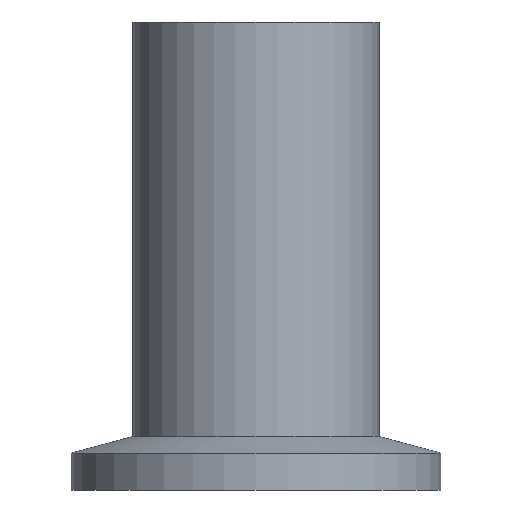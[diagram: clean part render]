
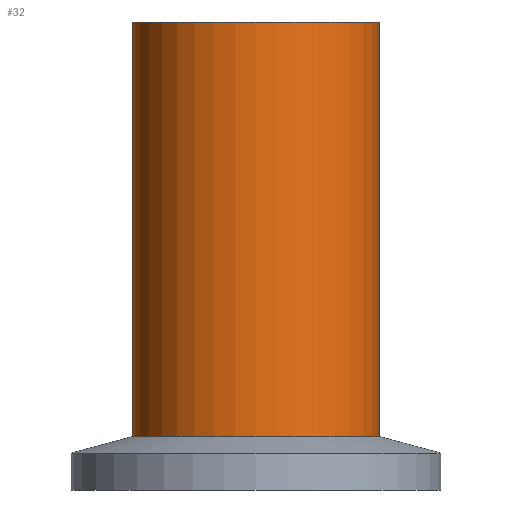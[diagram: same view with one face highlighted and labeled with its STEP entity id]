
A CAD part, front view. The second image highlights one B-rep face of the part: STEP entity #32.
In plain terms, the highlighted cylindrical face has radius 10 mm (diameter 20 mm), a full revolution.
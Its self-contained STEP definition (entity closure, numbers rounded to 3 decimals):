
#32 = ADVANCED_FACE( '', ( #65, #66 ), #67, .T. );
#65 = FACE_OUTER_BOUND( '', #104, .T. );
#66 = FACE_OUTER_BOUND( '', #105, .T. );
#67 = CYLINDRICAL_SURFACE( '', #106, 10. );
#104 = EDGE_LOOP( '', ( #137 ) );
#105 = EDGE_LOOP( '', ( #138 ) );
#106 = AXIS2_PLACEMENT_3D( '', #139, #140, #141 );
#137 = ORIENTED_EDGE( '', *, *, #185, .T. );
#138 = ORIENTED_EDGE( '', *, *, #186, .F. );
#139 = CARTESIAN_POINT( '', ( 0., 0., 54. ) );
#140 = DIRECTION( '', ( 0., 0., 1. ) );
#141 = DIRECTION( '', ( -1., 0., 0. ) );
#185 = EDGE_CURVE( '', #201, #201, #202, .T. );
#186 = EDGE_CURVE( '', #203, #203, #204, .T. );
#201 = VERTEX_POINT( '', #225 );
#202 = CIRCLE( '', #226, 10. );
#203 = VERTEX_POINT( '', #227 );
#204 = CIRCLE( '', #228, 10. );
#225 = CARTESIAN_POINT( '', ( -10., 0., 38. ) );
#226 = AXIS2_PLACEMENT_3D( '', #248, #249, #250 );
#227 = CARTESIAN_POINT( '', ( -10., 0., 4.34 ) );
#228 = AXIS2_PLACEMENT_3D( '', #251, #252, #253 );
#248 = CARTESIAN_POINT( '', ( 0., 0., 38. ) );
#249 = DIRECTION( '', ( 0., 0., -1. ) );
#250 = DIRECTION( '', ( -1., 0., 0. ) );
#251 = CARTESIAN_POINT( '', ( 0., 0., 4.34 ) );
#252 = DIRECTION( '', ( 0., 0., -1. ) );
#253 = DIRECTION( '', ( -1., 0., 0. ) );
